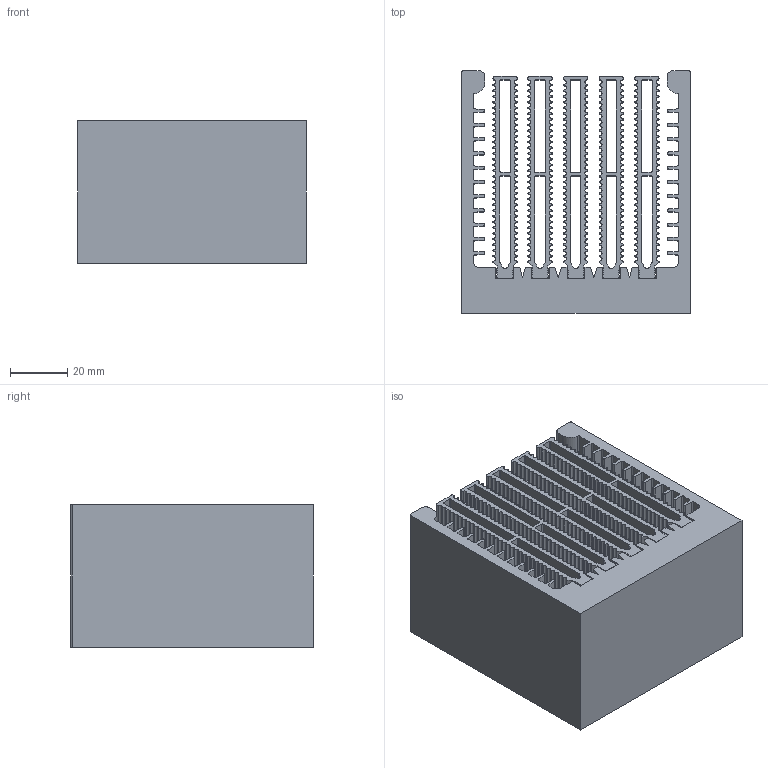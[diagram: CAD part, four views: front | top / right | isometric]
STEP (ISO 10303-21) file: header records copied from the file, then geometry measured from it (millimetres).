
FILE_DESCRIPTION (( 'STEP AP214' ), '1' );
FILE_NAME ('PR716_Komplett.STEP', '2008-02-08T06:14:46', ( 'Alutronic' ), ( 'Alutronic' ), 'SwSTEP 2.0', 'SolidWorks 2007', '' );
FILE_SCHEMA (( 'AUTOMOTIVE_DESIGN' ));
Length unit declared in the file: millimetre
Products named in the file (3): PR716_Rippe_Standard; PR716_Grundkörper_Standard; PR716_Komplett
Assembly tree (6 placements, depth 2):
  PR716_Komplett
    PR716_Rippe_Standard  x5
    PR716_Grundkörper_Standard
Bounding box: 80 x 85 x 50 mm (x, y, z)
Volume: 160970.1 mm3; surface area: 134669.9 mm2
Topology: 6 solids, 6 shells, 1482 faces, 4410 edges, 2940 vertices
Faces by surface type: cylinder 1187, plane 295
Entity records: 15636 total; most frequent: DIRECTION 2890, CARTESIAN_POINT 2713, ORIENTED_EDGE 2700, EDGE_CURVE 1350, AXIS2_PLACEMENT_3D 1077, VERTEX_POINT 900, VECTOR 736, LINE 736
